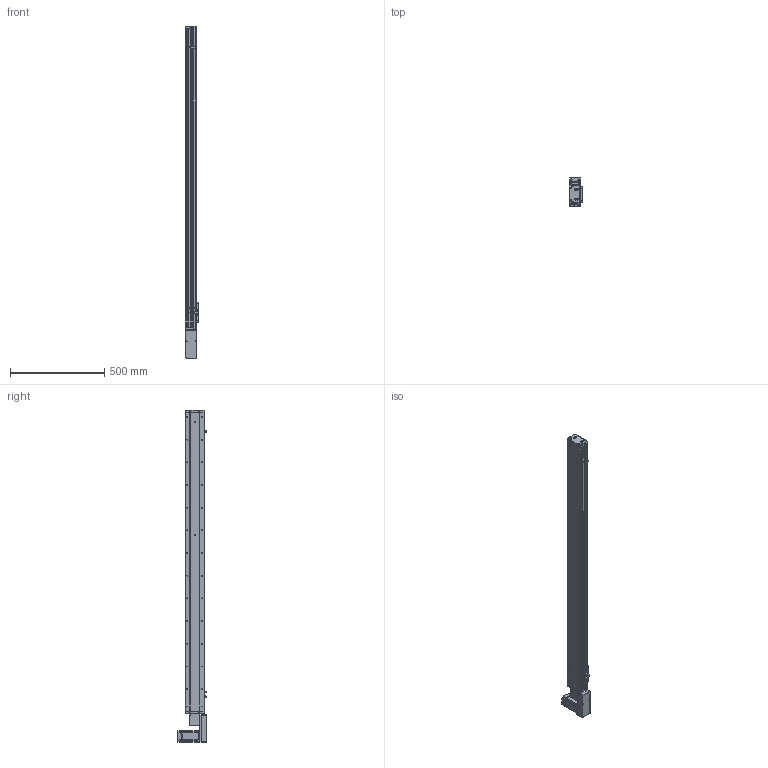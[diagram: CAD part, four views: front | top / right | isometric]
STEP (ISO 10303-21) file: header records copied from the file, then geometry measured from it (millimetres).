
FILE_DESCRIPTION (( 'STEP AP214' ), '1' );
FILE_NAME ('KSD100B-S1400-MRB-CR.STEP', '2019-09-07T09:23:09', ( '微软用户' ), ( '微软中国' ), 'SwSTEP 2.0', 'SolidWorks 2014', '' );
FILE_SCHEMA (( 'AUTOMOTIVE_DESIGN' ));
Length unit declared in the file: millimetre
Products named in the file (15): 100宽滚珠螺姆安装板1; 100遵裔啣揤啣; 悵誘欶奻狟殏; 100遵裔啣1400俴最; 100宽侧板1400行程同步带; 100宽底板全封闭1400行程同步带; KSD100B-S1400-MRB-CR; MHMD042G1CA_2_03; 100宽马达安装板连板上下折丝杆同步带; U倰嫖萇EEㄜSX672; 感应片100宽全封闭; 100宽马达安装板同步带右; 100遵鎮湛假蚾啣蜊; 100宽端板同步带全封闭; 100宽滚珠螺姆安装板1防护罩
Assembly tree (18 placements, depth 2):
  KSD100B-S1400-MRB-CR
    100宽底板全封闭1400行程同步带
    100宽侧板1400行程同步带  x2
    100遵裔啣1400俴最
    100遵裔啣揤啣  x2
    100宽滚珠螺姆安装板1
    100宽滚珠螺姆安装板1防护罩
    100宽端板同步带全封闭
    100遵鎮湛假蚾啣蜊
    100宽马达安装板同步带右
    感应片100宽全封闭
    U倰嫖萇EEㄜSX672  x3
    100宽马达安装板连板上下折丝杆同步带
    悵誘欶奻狟殏
    MHMD042G1CA_2_03
Bounding box: 70 x 156.2 x 1757 mm (x, y, z)
Volume: 3215758.4 mm3; surface area: 1410563.9 mm2
Topology: 17 solids, 18 shells, 1953 faces, 5464 edges, 3459 vertices
Faces by surface type: cylinder 893, plane 741, cone 299, bspline 20
Entity records: 69400 total; most frequent: CARTESIAN_POINT 10768, DIRECTION 9498, ORIENTED_EDGE 8724, EDGE_CURVE 4434, AXIS2_PLACEMENT_3D 3471, VERTEX_POINT 2937, VECTOR 2556, LINE 2556
